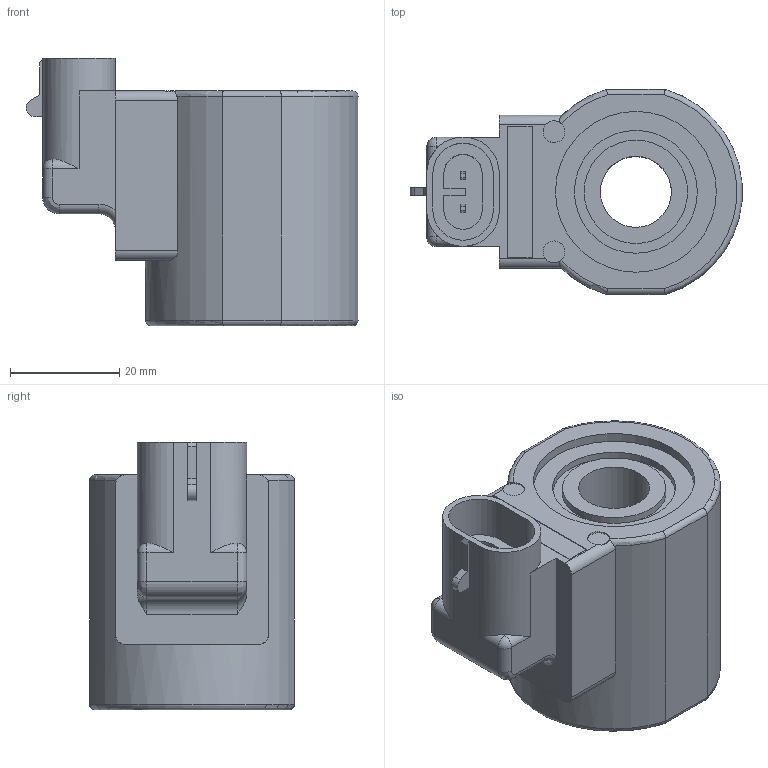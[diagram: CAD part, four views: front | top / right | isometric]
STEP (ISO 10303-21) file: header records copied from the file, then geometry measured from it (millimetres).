
FILE_DESCRIPTION((''),'2;1');
FILE_NAME('Q:\Delta CADD Insertion Codes\3D Solid models\Coils\STEP\PIA.stp','2012-06-04T10:06:16',('Dan'),(''),'Autodesk Inventor 2012','Autodesk Inventor 2012','');
FILE_SCHEMA(('AUTOMOTIVE_DESIGN { 1 0 10303 214 1 1 1 1 }'));
Length unit declared in the file: inch
Products named in the file (1): Part26
Bounding box: 60.78 x 37.5 x 49 mm (x, y, z)
Volume: 54253.8 mm3; surface area: 12843 mm2
Topology: 1 solids, 1 shells, 106 faces, 259 edges, 166 vertices
Faces by surface type: plane 59, cylinder 36, torus 7, bspline 2, sphere 2
Full cylindrical faces by diameter (mm): 4 x2, 13.005 x1, 18.948 x2, 22.504 x2, 29.439 x1, 29.997 x1
Entity records: 3347 total; most frequent: CARTESIAN_POINT 875, DIRECTION 501, ORIENTED_EDGE 492, EDGE_CURVE 246, AXIS2_PLACEMENT_3D 174, VERTEX_POINT 162, VECTOR 153, LINE 153
